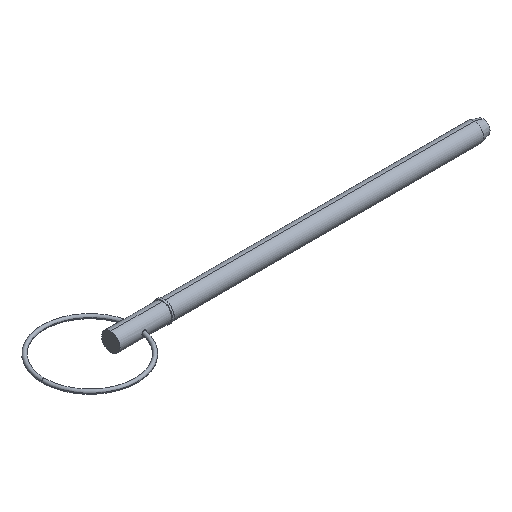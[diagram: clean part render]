
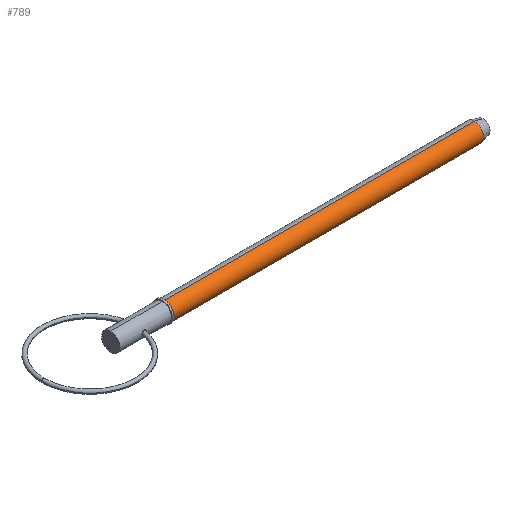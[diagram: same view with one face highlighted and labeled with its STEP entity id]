
A CAD part, isometric view. The second image highlights one B-rep face of the part: STEP entity #789.
In plain terms, the highlighted cylindrical face has radius 3.175 mm (diameter 6.35 mm), a partial arc.
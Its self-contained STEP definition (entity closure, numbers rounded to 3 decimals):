
#15 = DIRECTION ( 'NONE',  ( 1., 0., 0. ) ) ;
#33 = AXIS2_PLACEMENT_3D ( 'NONE', #955, #646, #263 ) ;
#75 = ORIENTED_EDGE ( 'NONE', *, *, #918, .T. ) ;
#85 = AXIS2_PLACEMENT_3D ( 'NONE', #803, #126, #428 ) ;
#123 = CARTESIAN_POINT ( 'NONE',  ( 124.848, 0., 3.175 ) ) ;
#126 = DIRECTION ( 'NONE',  ( 1., 0., 0. ) ) ;
#146 = CARTESIAN_POINT ( 'NONE',  ( 18.29, 0., 3.175 ) ) ;
#164 = EDGE_CURVE ( 'NONE', #939, #408, #463, .T. ) ;
#176 = ORIENTED_EDGE ( 'NONE', *, *, #639, .F. ) ;
#180 = VERTEX_POINT ( 'NONE', #123 ) ;
#193 = FACE_OUTER_BOUND ( 'NONE', #860, .T. ) ;
#221 = ORIENTED_EDGE ( 'NONE', *, *, #875, .F. ) ;
#227 = VECTOR ( 'NONE', #309, 1000. ) ;
#250 = ORIENTED_EDGE ( 'NONE', *, *, #164, .T. ) ;
#263 = DIRECTION ( 'NONE',  ( 0., 0., -1. ) ) ;
#309 = DIRECTION ( 'NONE',  ( 1., 0., 0. ) ) ;
#334 = CIRCLE ( 'NONE', #629, 3.175 ) ;
#375 = CARTESIAN_POINT ( 'NONE',  ( 0., 0., 3.175 ) ) ;
#381 = CARTESIAN_POINT ( 'NONE',  ( 124.848, 0., -3.175 ) ) ;
#404 = CARTESIAN_POINT ( 'NONE',  ( 124.848, 0., 0. ) ) ;
#408 = VERTEX_POINT ( 'NONE', #769 ) ;
#428 = DIRECTION ( 'NONE',  ( 0., 0., -1. ) ) ;
#463 = CIRCLE ( 'NONE', #33, 3.175 ) ;
#501 = CYLINDRICAL_SURFACE ( 'NONE', #85, 3.175 ) ;
#531 = LINE ( 'NONE', #375, #655 ) ;
#603 = DIRECTION ( 'NONE',  ( 1., 0., 0. ) ) ;
#629 = AXIS2_PLACEMENT_3D ( 'NONE', #404, #15, #788 ) ;
#639 = EDGE_CURVE ( 'NONE', #180, #848, #334, .T. ) ;
#646 = DIRECTION ( 'NONE',  ( 1., 0., 0. ) ) ;
#655 = VECTOR ( 'NONE', #603, 1000. ) ;
#755 = LINE ( 'NONE', #929, #227 ) ;
#769 = CARTESIAN_POINT ( 'NONE',  ( 18.29, 0., -3.175 ) ) ;
#788 = DIRECTION ( 'NONE',  ( 0., 0., -1. ) ) ;
#789 = ADVANCED_FACE ( 'NONE', ( #193 ), #501, .T. ) ;
#803 = CARTESIAN_POINT ( 'NONE',  ( 0., 0., 0. ) ) ;
#848 = VERTEX_POINT ( 'NONE', #381 ) ;
#860 = EDGE_LOOP ( 'NONE', ( #221, #250, #75, #176 ) ) ;
#875 = EDGE_CURVE ( 'NONE', #939, #180, #531, .T. ) ;
#918 = EDGE_CURVE ( 'NONE', #408, #848, #755, .T. ) ;
#929 = CARTESIAN_POINT ( 'NONE',  ( 0., 0., -3.175 ) ) ;
#939 = VERTEX_POINT ( 'NONE', #146 ) ;
#955 = CARTESIAN_POINT ( 'NONE',  ( 18.29, 0., 0. ) ) ;
